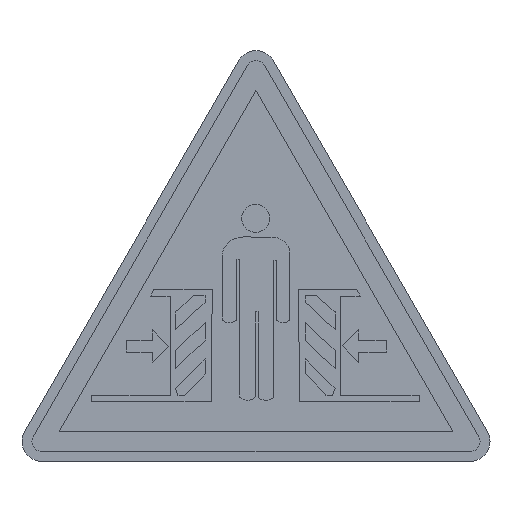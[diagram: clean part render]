
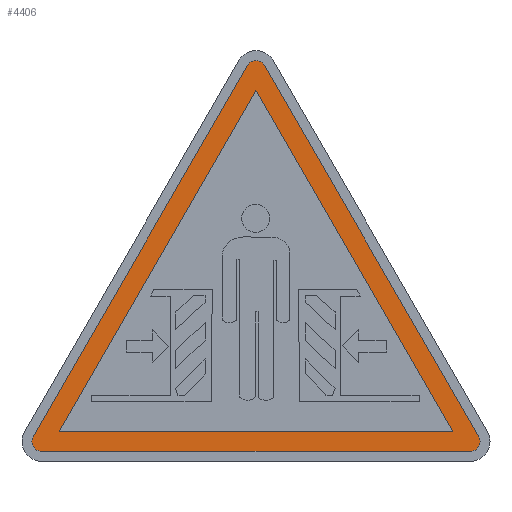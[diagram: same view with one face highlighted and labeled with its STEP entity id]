
A CAD part, top view. The second image highlights one B-rep face of the part: STEP entity #4406.
In plain terms, the highlighted planar face has unit normal (0, 0, 1).
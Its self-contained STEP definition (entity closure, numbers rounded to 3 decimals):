
#30 = ORIENTED_EDGE ( 'NONE', *, *, #1911, .F. ) ;
#142 = ORIENTED_EDGE ( 'NONE', *, *, #1426, .T. ) ;
#220 = CARTESIAN_POINT ( 'NONE',  ( -21.536, 1., 0.22 ) ) ;
#227 = CARTESIAN_POINT ( 'NONE',  ( 0., 39.301, 0.22 ) ) ;
#326 = CARTESIAN_POINT ( 'NONE',  ( 21.536, 1., 0.22 ) ) ;
#356 = DIRECTION ( 'NONE',  ( 1., 0., 0. ) ) ;
#392 = ORIENTED_EDGE ( 'NONE', *, *, #3182, .T. ) ;
#420 = VERTEX_POINT ( 'NONE', #2635 ) ;
#490 = AXIS2_PLACEMENT_3D ( 'NONE', #227, #4007, #1750 ) ;
#611 = DIRECTION ( 'NONE',  ( 1., 0., 0. ) ) ;
#676 = CARTESIAN_POINT ( 'NONE',  ( -0.866, 39.801, 0.22 ) ) ;
#742 = VECTOR ( 'NONE', #1720, 1000. ) ;
#920 = CARTESIAN_POINT ( 'NONE',  ( -19.804, 3., 0.22 ) ) ;
#1040 = DIRECTION ( 'NONE',  ( -0.5, -0.866, 0. ) ) ;
#1113 = CARTESIAN_POINT ( 'NONE',  ( 19.804, 3., 0.22 ) ) ;
#1159 = ORIENTED_EDGE ( 'NONE', *, *, #3428, .T. ) ;
#1204 = DIRECTION ( 'NONE',  ( 1., 0., 0. ) ) ;
#1230 = DIRECTION ( 'NONE',  ( -0.5, 0.866, 0. ) ) ;
#1237 = ORIENTED_EDGE ( 'NONE', *, *, #1292, .F. ) ;
#1252 = CARTESIAN_POINT ( 'NONE',  ( -21.536, 2., 0.22 ) ) ;
#1288 = AXIS2_PLACEMENT_3D ( 'NONE', #3716, #2216, #356 ) ;
#1292 = EDGE_CURVE ( 'NONE', #1298, #2433, #2586, .T. ) ;
#1298 = VERTEX_POINT ( 'NONE', #2543 ) ;
#1304 = CARTESIAN_POINT ( 'NONE',  ( 22.402, 2.5, 0.22 ) ) ;
#1347 = VERTEX_POINT ( 'NONE', #3657 ) ;
#1426 = EDGE_CURVE ( 'NONE', #4364, #420, #4208, .T. ) ;
#1444 = CIRCLE ( 'NONE', #490, 1. ) ;
#1555 = DIRECTION ( 'NONE',  ( 0., 0., 1. ) ) ;
#1672 = ORIENTED_EDGE ( 'NONE', *, *, #4033, .T. ) ;
#1720 = DIRECTION ( 'NONE',  ( 1., 0., 0. ) ) ;
#1750 = DIRECTION ( 'NONE',  ( 1., 0., 0. ) ) ;
#1766 = VECTOR ( 'NONE', #1230, 1000. ) ;
#1911 = EDGE_CURVE ( 'NONE', #2433, #4356, #2481, .T. ) ;
#1973 = LINE ( 'NONE', #4555, #1766 ) ;
#2040 = ORIENTED_EDGE ( 'NONE', *, *, #2776, .T. ) ;
#2216 = DIRECTION ( 'NONE',  ( 0., 0., 1. ) ) ;
#2295 = VERTEX_POINT ( 'NONE', #3714 ) ;
#2375 = CARTESIAN_POINT ( 'NONE',  ( 0., 39.301, 0.22 ) ) ;
#2399 = ORIENTED_EDGE ( 'NONE', *, *, #3526, .T. ) ;
#2433 = VERTEX_POINT ( 'NONE', #4779 ) ;
#2481 = LINE ( 'NONE', #920, #4663 ) ;
#2543 = CARTESIAN_POINT ( 'NONE',  ( 0., 37.301, 0.22 ) ) ;
#2586 = LINE ( 'NONE', #3329, #2668 ) ;
#2635 = CARTESIAN_POINT ( 'NONE',  ( 22.402, 2.5, 0.22 ) ) ;
#2668 = VECTOR ( 'NONE', #1040, 1000. ) ;
#2765 = DIRECTION ( 'NONE',  ( 0., 0., 1. ) ) ;
#2776 = EDGE_CURVE ( 'NONE', #1347, #2866, #1444, .T. ) ;
#2799 = DIRECTION ( 'NONE',  ( 1., 0., 0. ) ) ;
#2818 = LINE ( 'NONE', #676, #3763 ) ;
#2866 = VERTEX_POINT ( 'NONE', #3952 ) ;
#3053 = DIRECTION ( 'NONE',  ( 1., 0., 0. ) ) ;
#3130 = EDGE_LOOP ( 'NONE', ( #30, #1237, #4641 ) ) ;
#3153 = FACE_BOUND ( 'NONE', #3130, .T. ) ;
#3182 = EDGE_CURVE ( 'NONE', #2866, #3352, #2818, .T. ) ;
#3244 = DIRECTION ( 'NONE',  ( -0.5, -0.866, 0. ) ) ;
#3329 = CARTESIAN_POINT ( 'NONE',  ( 0., 37.301, 0.22 ) ) ;
#3352 = VERTEX_POINT ( 'NONE', #3800 ) ;
#3428 = EDGE_CURVE ( 'NONE', #4441, #4364, #4720, .T. ) ;
#3451 = FACE_OUTER_BOUND ( 'NONE', #4671, .T. ) ;
#3479 = DIRECTION ( 'NONE',  ( 0., 0., 1. ) ) ;
#3514 = ORIENTED_EDGE ( 'NONE', *, *, #4669, .T. ) ;
#3526 = EDGE_CURVE ( 'NONE', #2295, #4441, #4394, .T. ) ;
#3574 = DIRECTION ( 'NONE',  ( -0.5, 0.866, 0. ) ) ;
#3657 = CARTESIAN_POINT ( 'NONE',  ( 0.866, 39.801, 0.22 ) ) ;
#3658 = CARTESIAN_POINT ( 'NONE',  ( -21.536, 1., 0.22 ) ) ;
#3714 = CARTESIAN_POINT ( 'NONE',  ( -22.536, 2., 0.22 ) ) ;
#3716 = CARTESIAN_POINT ( 'NONE',  ( -21.536, 2., 0.22 ) ) ;
#3763 = VECTOR ( 'NONE', #3244, 1000. ) ;
#3800 = CARTESIAN_POINT ( 'NONE',  ( -22.402, 2.5, 0.22 ) ) ;
#3856 = PLANE ( 'NONE',  #4547 ) ;
#3893 = AXIS2_PLACEMENT_3D ( 'NONE', #4571, #1555, #1204 ) ;
#3952 = CARTESIAN_POINT ( 'NONE',  ( -0.866, 39.801, 0.22 ) ) ;
#4007 = DIRECTION ( 'NONE',  ( 0., 0., 1. ) ) ;
#4021 = LINE ( 'NONE', #1304, #4695 ) ;
#4033 = EDGE_CURVE ( 'NONE', #3352, #2295, #4157, .T. ) ;
#4134 = EDGE_CURVE ( 'NONE', #4356, #1298, #1973, .T. ) ;
#4157 = CIRCLE ( 'NONE', #4229, 1. ) ;
#4208 = CIRCLE ( 'NONE', #3893, 1. ) ;
#4229 = AXIS2_PLACEMENT_3D ( 'NONE', #1252, #2765, #3053 ) ;
#4356 = VERTEX_POINT ( 'NONE', #1113 ) ;
#4364 = VERTEX_POINT ( 'NONE', #326 ) ;
#4394 = CIRCLE ( 'NONE', #1288, 1. ) ;
#4406 = ADVANCED_FACE ( 'NONE', ( #3451, #3153 ), #3856, .T. ) ;
#4441 = VERTEX_POINT ( 'NONE', #3658 ) ;
#4547 = AXIS2_PLACEMENT_3D ( 'NONE', #2375, #3479, #2799 ) ;
#4555 = CARTESIAN_POINT ( 'NONE',  ( 19.804, 3., 0.22 ) ) ;
#4571 = CARTESIAN_POINT ( 'NONE',  ( 21.536, 2., 0.22 ) ) ;
#4641 = ORIENTED_EDGE ( 'NONE', *, *, #4134, .F. ) ;
#4663 = VECTOR ( 'NONE', #611, 1000. ) ;
#4669 = EDGE_CURVE ( 'NONE', #420, #1347, #4021, .T. ) ;
#4671 = EDGE_LOOP ( 'NONE', ( #2040, #392, #1672, #2399, #1159, #142, #3514 ) ) ;
#4695 = VECTOR ( 'NONE', #3574, 1000. ) ;
#4720 = LINE ( 'NONE', #220, #742 ) ;
#4779 = CARTESIAN_POINT ( 'NONE',  ( -19.804, 3., 0.22 ) ) ;
